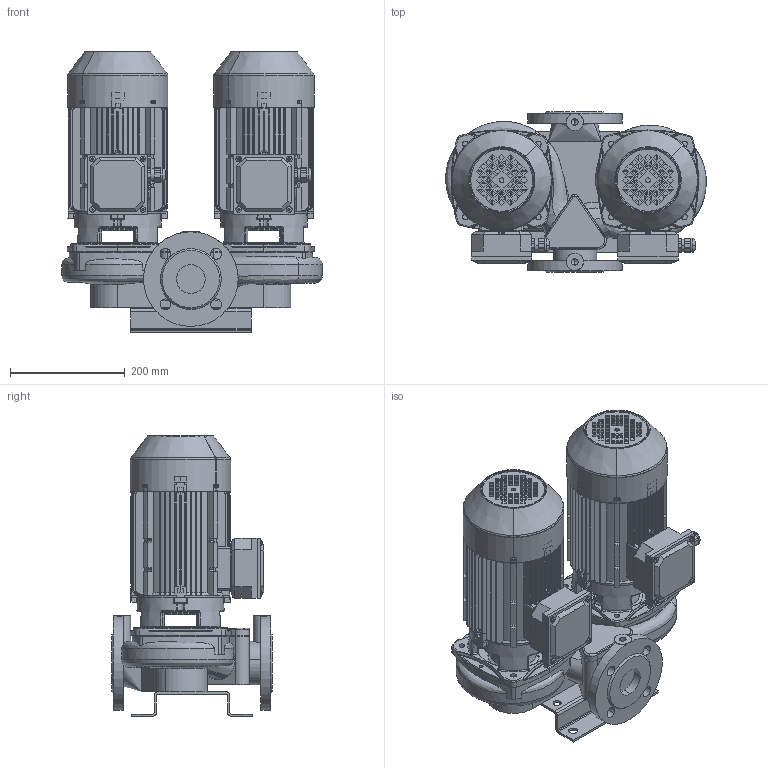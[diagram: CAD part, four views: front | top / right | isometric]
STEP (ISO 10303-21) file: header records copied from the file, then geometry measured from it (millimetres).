
FILE_DESCRIPTION(('STEP AP214'),'1');
FILE_NAME('export.stp','2018-05-30T07:44:07',(' '),(' '),'Spatial InterOp 3D',' ',' ');
FILE_SCHEMA(('AUTOMOTIVE_DESIGN { 1 0 10303 214 1 1 1 1 }'));
Length unit declared in the file: millimetre
Products named in the file (34): W_T50D2220_KP; V_TLL50ABC; V_PPT50ABC; V_JALKA35973; 160033; 160008; KP90SF19_2_22; M5x8_DIN; DIN_7985-M5X8; 160141; M5x12_DIN; DIN_7985-M5X12; 160137; 160138; 160139; 160140; Koura_Ale_M5; Plug_Blind_M20; Sealing_Plug_M20; plain_washer_grade_a_din_Washer_; 160086___; 160068___; 160135
Assembly tree (54 placements, depth 5):
  W_T50D2220_KP
    V_TLL50ABC  x2
    V_PPT50ABC
    V_JALKA35973
    KP90SF19_2_22
      160033
        160008
      160141
        M5x8_DIN
          DIN_7985-M5X8
        M5x12_DIN
          DIN_7985-M5X12
        M5x12_DIN
          DIN_7985-M5X12
        M5x12_DIN
          DIN_7985-M5X12
        M5x12_DIN
          DIN_7985-M5X12
        160137
        160138
        160139
        160140
        Koura_Ale_M5
        Plug_Blind_M20
        Sealing_Plug_M20
        plain_washer_grade_a_din_Washer_
      160086___
      160068___
      160135
    KP90SF19_2_22
      160033
        160008
      160141
        M5x8_DIN
          DIN_7985-M5X8
        M5x12_DIN
          DIN_7985-M5X12
        M5x12_DIN
          DIN_7985-M5X12
        M5x12_DIN
          DIN_7985-M5X12
        M5x12_DIN
          DIN_7985-M5X12
        160137
        160138
        160139
        160140
        Koura_Ale_M5
        Plug_Blind_M20
        Sealing_Plug_M20
        plain_washer_grade_a_din_Washer_
      160086___
      160068___
      160135
Bounding box: 454.48 x 280 x 489.6 mm (x, y, z)
Volume: 12006453.9 mm3; surface area: 3926481.4 mm2
Topology: 40 solids, 40 shells, 4774 faces, 12685 edges, 8028 vertices
Faces by surface type: plane 1986, cylinder 1357, torus 576, bspline 535, cone 296, sphere 24
Entity records: 98358 total; most frequent: CARTESIAN_POINT 34841, ORIENTED_EDGE 12928, DIRECTION 11945, EDGE_CURVE 6464, AXIS2_PLACEMENT_3D 4547, VERTEX_POINT 4116, LINE 2851, VECTOR 2851
